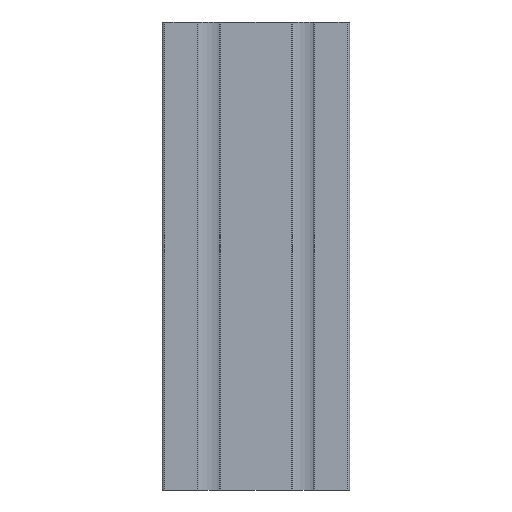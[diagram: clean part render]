
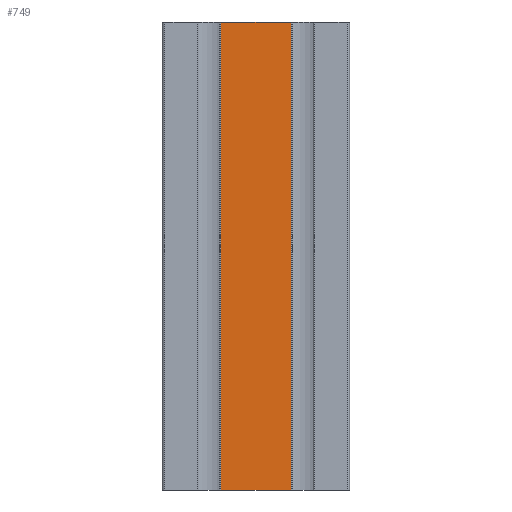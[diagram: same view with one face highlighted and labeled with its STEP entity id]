
A CAD part, front view. The second image highlights one B-rep face of the part: STEP entity #749.
In plain terms, the highlighted planar face has unit normal (0, -1, 0).
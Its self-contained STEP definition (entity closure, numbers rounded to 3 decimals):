
#269 = ORIENTED_EDGE ( 'NONE', *, *, #635, .F. ) ;
#405 = ORIENTED_EDGE ( 'NONE', *, *, #2098, .T. ) ;
#582 = VERTEX_POINT ( 'NONE', #2742 ) ;
#635 = EDGE_CURVE ( 'NONE', #582, #1053, #3586, .T. ) ;
#749 = ADVANCED_FACE ( 'NONE', ( #2932 ), #2600, .F. ) ;
#774 = CARTESIAN_POINT ( 'NONE',  ( 7.55, -10., 50. ) ) ;
#833 = DIRECTION ( 'NONE',  ( 1., 0., 0. ) ) ;
#968 = CARTESIAN_POINT ( 'NONE',  ( -7.55, -10., -50. ) ) ;
#1053 = VERTEX_POINT ( 'NONE', #1750 ) ;
#1602 = DIRECTION ( 'NONE',  ( 0., 0., 1. ) ) ;
#1625 = ORIENTED_EDGE ( 'NONE', *, *, #1955, .F. ) ;
#1670 = ORIENTED_EDGE ( 'NONE', *, *, #4470, .T. ) ;
#1750 = CARTESIAN_POINT ( 'NONE',  ( 7.55, -10., 50. ) ) ;
#1772 = CARTESIAN_POINT ( 'NONE',  ( -7.55, -10., 50. ) ) ;
#1786 = VERTEX_POINT ( 'NONE', #968 ) ;
#1872 = CARTESIAN_POINT ( 'NONE',  ( -7.55, -10., -50. ) ) ;
#1955 = EDGE_CURVE ( 'NONE', #1053, #3399, #2486, .T. ) ;
#2098 = EDGE_CURVE ( 'NONE', #1786, #3399, #2589, .T. ) ;
#2161 = LINE ( 'NONE', #1772, #3291 ) ;
#2455 = VECTOR ( 'NONE', #4254, 1000. ) ;
#2486 = LINE ( 'NONE', #774, #4169 ) ;
#2558 = DIRECTION ( 'NONE',  ( 0., 0., -1. ) ) ;
#2589 = LINE ( 'NONE', #1872, #3589 ) ;
#2600 = PLANE ( 'NONE',  #3641 ) ;
#2742 = CARTESIAN_POINT ( 'NONE',  ( -7.55, -10., 50. ) ) ;
#2932 = FACE_OUTER_BOUND ( 'NONE', #4228, .T. ) ;
#3014 = DIRECTION ( 'NONE',  ( 0., 1., 0. ) ) ;
#3291 = VECTOR ( 'NONE', #2558, 1000. ) ;
#3399 = VERTEX_POINT ( 'NONE', #4579 ) ;
#3586 = LINE ( 'NONE', #4576, #2455 ) ;
#3589 = VECTOR ( 'NONE', #833, 1000. ) ;
#3641 = AXIS2_PLACEMENT_3D ( 'NONE', #4017, #3014, #1602 ) ;
#3943 = DIRECTION ( 'NONE',  ( 0., 0., -1. ) ) ;
#4017 = CARTESIAN_POINT ( 'NONE',  ( -7.55, -10., 50. ) ) ;
#4169 = VECTOR ( 'NONE', #3943, 1000. ) ;
#4228 = EDGE_LOOP ( 'NONE', ( #405, #1625, #269, #1670 ) ) ;
#4254 = DIRECTION ( 'NONE',  ( 1., 0., 0. ) ) ;
#4470 = EDGE_CURVE ( 'NONE', #582, #1786, #2161, .T. ) ;
#4576 = CARTESIAN_POINT ( 'NONE',  ( -7.55, -10., 50. ) ) ;
#4579 = CARTESIAN_POINT ( 'NONE',  ( 7.55, -10., -50. ) ) ;
